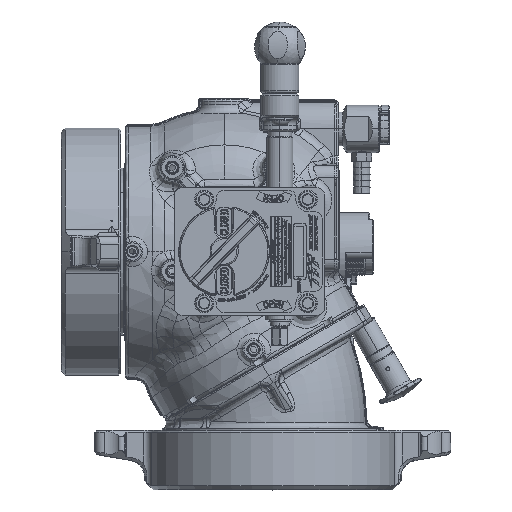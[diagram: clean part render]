
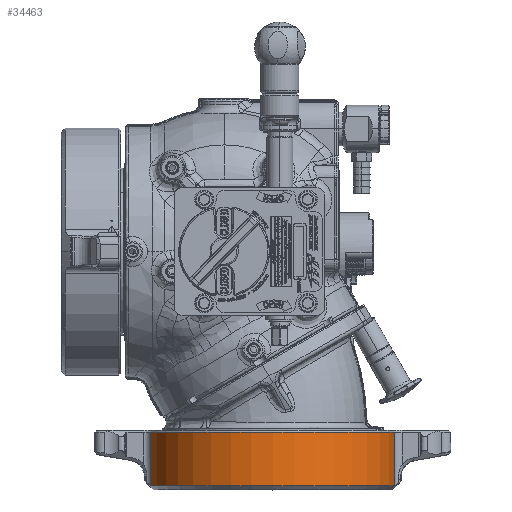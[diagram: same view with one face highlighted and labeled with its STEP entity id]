
A CAD part, top view. The second image highlights one B-rep face of the part: STEP entity #34463.
In plain terms, the highlighted cylindrical face has radius 98.425 mm (diameter 196.85 mm), a partial arc.
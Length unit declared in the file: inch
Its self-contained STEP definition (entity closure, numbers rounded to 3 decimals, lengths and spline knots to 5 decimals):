
#13478 = AXIS2_PLACEMENT_3D ( 'NONE', #284856, #194363, #63499 ) ;
#20829 = CARTESIAN_POINT ( 'NONE',  ( 5.34141, -5.66463, 0.68106 ) ) ;
#32374 = EDGE_CURVE ( 'NONE', #257625, #193412, #269434, .T. ) ;
#34463 = ADVANCED_FACE ( 'NONE', ( #199325 ), #113045, .T. ) ;
#41250 = AXIS2_PLACEMENT_3D ( 'NONE', #239224, #129318, #283376 ) ;
#53958 = DIRECTION ( 'NONE',  ( -1., 0., 0. ) ) ;
#59235 = ORIENTED_EDGE ( 'NONE', *, *, #236244, .F. ) ;
#63499 = DIRECTION ( 'NONE',  ( 1., 0., 0. ) ) ;
#65533 = LINE ( 'NONE', #191819, #158531 ) ;
#79329 = CIRCLE ( 'NONE', #41250, 3.875 ) ;
#79891 = VERTEX_POINT ( 'NONE', #142508 ) ;
#97951 = ORIENTED_EDGE ( 'NONE', *, *, #198260, .T. ) ;
#110231 = CARTESIAN_POINT ( 'NONE',  ( -2.28795, -7.34013, 0.68106 ) ) ;
#113045 = CYLINDRICAL_SURFACE ( 'NONE', #13478, 3.875 ) ;
#118642 = ORIENTED_EDGE ( 'NONE', *, *, #32374, .T. ) ;
#122195 = CARTESIAN_POINT ( 'NONE',  ( 5.34141, -7.51513, 0.68106 ) ) ;
#129318 = DIRECTION ( 'NONE',  ( 0., -1., 0. ) ) ;
#142508 = CARTESIAN_POINT ( 'NONE',  ( 5.34141, -7.34013, 0.68106 ) ) ;
#150551 = EDGE_LOOP ( 'NONE', ( #97951, #118642, #59235, #173416 ) ) ;
#158531 = VECTOR ( 'NONE', #261250, 39.37008 ) ;
#173179 = VECTOR ( 'NONE', #228341, 39.37008 ) ;
#173416 = ORIENTED_EDGE ( 'NONE', *, *, #191482, .F. ) ;
#183040 = VERTEX_POINT ( 'NONE', #110231 ) ;
#191482 = EDGE_CURVE ( 'NONE', #79891, #183040, #79329, .T. ) ;
#191819 = CARTESIAN_POINT ( 'NONE',  ( -2.28795, -7.51513, 0.68106 ) ) ;
#193412 = VERTEX_POINT ( 'NONE', #209123 ) ;
#194363 = DIRECTION ( 'NONE',  ( 0., 1., 0. ) ) ;
#198260 = EDGE_CURVE ( 'NONE', #79891, #257625, #280192, .T. ) ;
#199325 = FACE_OUTER_BOUND ( 'NONE', #150551, .T. ) ;
#208944 = DIRECTION ( 'NONE',  ( 0., -1., 0. ) ) ;
#209123 = CARTESIAN_POINT ( 'NONE',  ( -2.28795, -5.66463, 0.68106 ) ) ;
#228341 = DIRECTION ( 'NONE',  ( 0., 1., 0. ) ) ;
#236244 = EDGE_CURVE ( 'NONE', #183040, #193412, #65533, .T. ) ;
#236279 = AXIS2_PLACEMENT_3D ( 'NONE', #276345, #208944, #53958 ) ;
#239224 = CARTESIAN_POINT ( 'NONE',  ( 1.52673, -7.34013, 0. ) ) ;
#257625 = VERTEX_POINT ( 'NONE', #20829 ) ;
#261250 = DIRECTION ( 'NONE',  ( 0., 1., 0. ) ) ;
#269434 = CIRCLE ( 'NONE', #236279, 3.875 ) ;
#276345 = CARTESIAN_POINT ( 'NONE',  ( 1.52673, -5.66463, 0. ) ) ;
#280192 = LINE ( 'NONE', #122195, #173179 ) ;
#283376 = DIRECTION ( 'NONE',  ( 1., 0., 0. ) ) ;
#284856 = CARTESIAN_POINT ( 'NONE',  ( 1.52673, -7.51513, 0. ) ) ;
